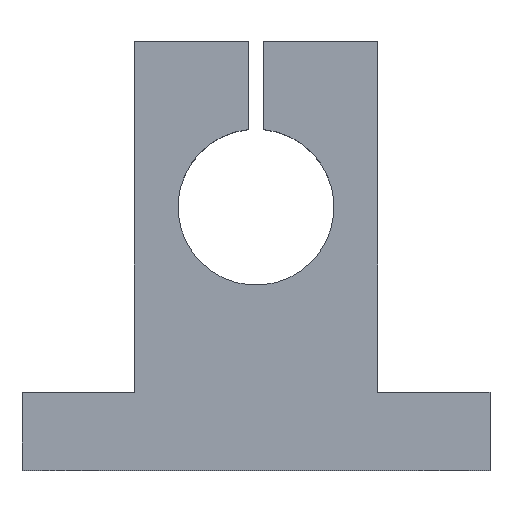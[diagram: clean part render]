
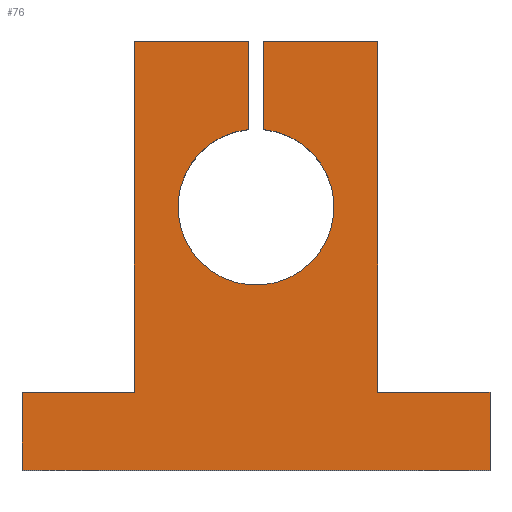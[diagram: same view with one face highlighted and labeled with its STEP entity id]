
A CAD part, top view. The second image highlights one B-rep face of the part: STEP entity #76.
In plain terms, the highlighted planar face has unit normal (0, 0, 1).
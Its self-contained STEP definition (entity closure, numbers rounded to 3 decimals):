
#76 = ADVANCED_FACE( '', ( #94 ), #95, .T. );
#94 = FACE_OUTER_BOUND( '', #132, .T. );
#95 = PLANE( '', #133 );
#132 = EDGE_LOOP( '', ( #175, #176, #177, #178, #179, #180, #181, #182, #183, #184, #185, #186 ) );
#133 = AXIS2_PLACEMENT_3D( '', #187, #188, #189 );
#175 = ORIENTED_EDGE( '', *, *, #300, .T. );
#176 = ORIENTED_EDGE( '', *, *, #301, .T. );
#177 = ORIENTED_EDGE( '', *, *, #302, .T. );
#178 = ORIENTED_EDGE( '', *, *, #303, .T. );
#179 = ORIENTED_EDGE( '', *, *, #304, .T. );
#180 = ORIENTED_EDGE( '', *, *, #305, .T. );
#181 = ORIENTED_EDGE( '', *, *, #306, .T. );
#182 = ORIENTED_EDGE( '', *, *, #307, .T. );
#183 = ORIENTED_EDGE( '', *, *, #308, .F. );
#184 = ORIENTED_EDGE( '', *, *, #309, .T. );
#185 = ORIENTED_EDGE( '', *, *, #310, .T. );
#186 = ORIENTED_EDGE( '', *, *, #298, .T. );
#187 = CARTESIAN_POINT( '', ( 0., 27., 8. ) );
#188 = DIRECTION( '', ( 0., 0., 1. ) );
#189 = DIRECTION( '', ( 1., 0., 0. ) );
#298 = EDGE_CURVE( '', #341, #339, #342, .T. );
#300 = EDGE_CURVE( '', #339, #344, #345, .T. );
#301 = EDGE_CURVE( '', #344, #346, #347, .T. );
#302 = EDGE_CURVE( '', #346, #348, #349, .T. );
#303 = EDGE_CURVE( '', #348, #350, #351, .T. );
#304 = EDGE_CURVE( '', #350, #352, #353, .T. );
#305 = EDGE_CURVE( '', #352, #354, #355, .T. );
#306 = EDGE_CURVE( '', #354, #356, #357, .T. );
#307 = EDGE_CURVE( '', #356, #358, #359, .T. );
#308 = EDGE_CURVE( '', #360, #358, #361, .T. );
#309 = EDGE_CURVE( '', #360, #362, #363, .T. );
#310 = EDGE_CURVE( '', #362, #341, #364, .T. );
#339 = VERTEX_POINT( '', #408 );
#341 = VERTEX_POINT( '', #411 );
#342 = LINE( '', #412, #413 );
#344 = VERTEX_POINT( '', #416 );
#345 = LINE( '', #417, #418 );
#346 = VERTEX_POINT( '', #419 );
#347 = LINE( '', #420, #421 );
#348 = VERTEX_POINT( '', #422 );
#349 = LINE( '', #423, #424 );
#350 = VERTEX_POINT( '', #425 );
#351 = LINE( '', #426, #427 );
#352 = VERTEX_POINT( '', #428 );
#353 = LINE( '', #429, #430 );
#354 = VERTEX_POINT( '', #431 );
#355 = LINE( '', #432, #433 );
#356 = VERTEX_POINT( '', #434 );
#357 = LINE( '', #435, #436 );
#358 = VERTEX_POINT( '', #437 );
#359 = LINE( '', #438, #439 );
#360 = VERTEX_POINT( '', #440 );
#361 = CIRCLE( '', #441, 8. );
#362 = VERTEX_POINT( '', #442 );
#363 = LINE( '', #443, #444 );
#364 = LINE( '', #445, #446 );
#408 = CARTESIAN_POINT( '', ( -12.5, 8., 8. ) );
#411 = CARTESIAN_POINT( '', ( -12.5, 44., 8. ) );
#412 = CARTESIAN_POINT( '', ( -12.5, 44., 8. ) );
#413 = VECTOR( '', #508, 1000. );
#416 = CARTESIAN_POINT( '', ( -24., 8., 8. ) );
#417 = CARTESIAN_POINT( '', ( -12.5, 8., 8. ) );
#418 = VECTOR( '', #510, 1000. );
#419 = CARTESIAN_POINT( '', ( -24., 0., 8. ) );
#420 = CARTESIAN_POINT( '', ( -24., 8., 8. ) );
#421 = VECTOR( '', #511, 1000. );
#422 = CARTESIAN_POINT( '', ( 24., 0., 8. ) );
#423 = CARTESIAN_POINT( '', ( -24., 0., 8. ) );
#424 = VECTOR( '', #512, 1000. );
#425 = CARTESIAN_POINT( '', ( 24., 8., 8. ) );
#426 = CARTESIAN_POINT( '', ( 24., 0., 8. ) );
#427 = VECTOR( '', #513, 1000. );
#428 = CARTESIAN_POINT( '', ( 12.5, 8., 8. ) );
#429 = CARTESIAN_POINT( '', ( 24., 8., 8. ) );
#430 = VECTOR( '', #514, 1000. );
#431 = CARTESIAN_POINT( '', ( 12.5, 44., 8. ) );
#432 = CARTESIAN_POINT( '', ( 12.5, 8., 8. ) );
#433 = VECTOR( '', #515, 1000. );
#434 = CARTESIAN_POINT( '', ( 0.8, 44., 8. ) );
#435 = CARTESIAN_POINT( '', ( 12.5, 44., 8. ) );
#436 = VECTOR( '', #516, 1000. );
#437 = CARTESIAN_POINT( '', ( 0.8, 34.96, 8. ) );
#438 = CARTESIAN_POINT( '', ( 0.8, 44., 8. ) );
#439 = VECTOR( '', #517, 1000. );
#440 = CARTESIAN_POINT( '', ( -0.8, 34.96, 8. ) );
#441 = AXIS2_PLACEMENT_3D( '', #518, #519, #520 );
#442 = CARTESIAN_POINT( '', ( -0.8, 44., 8. ) );
#443 = CARTESIAN_POINT( '', ( -0.8, 34.96, 8. ) );
#444 = VECTOR( '', #521, 1000. );
#445 = CARTESIAN_POINT( '', ( -0.8, 44., 8. ) );
#446 = VECTOR( '', #522, 1000. );
#508 = DIRECTION( '', ( 0., -1., 0. ) );
#510 = DIRECTION( '', ( -1., 0., 0. ) );
#511 = DIRECTION( '', ( 0., -1., 0. ) );
#512 = DIRECTION( '', ( 1., 0., 0. ) );
#513 = DIRECTION( '', ( 0., 1., 0. ) );
#514 = DIRECTION( '', ( -1., 0., 0. ) );
#515 = DIRECTION( '', ( 0., 1., 0. ) );
#516 = DIRECTION( '', ( -1., 0., 0. ) );
#517 = DIRECTION( '', ( 0., -1., 0. ) );
#518 = CARTESIAN_POINT( '', ( 0., 27., 8. ) );
#519 = DIRECTION( '', ( 0., 0., 1. ) );
#520 = DIRECTION( '', ( 1., 0., 0. ) );
#521 = DIRECTION( '', ( 0., 1., 0. ) );
#522 = DIRECTION( '', ( -1., 0., 0. ) );
